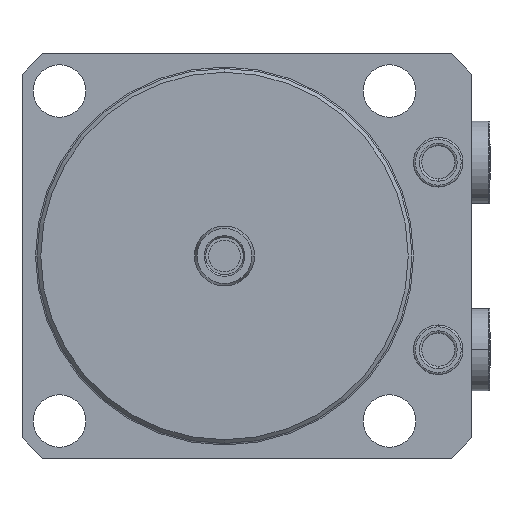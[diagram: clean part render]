
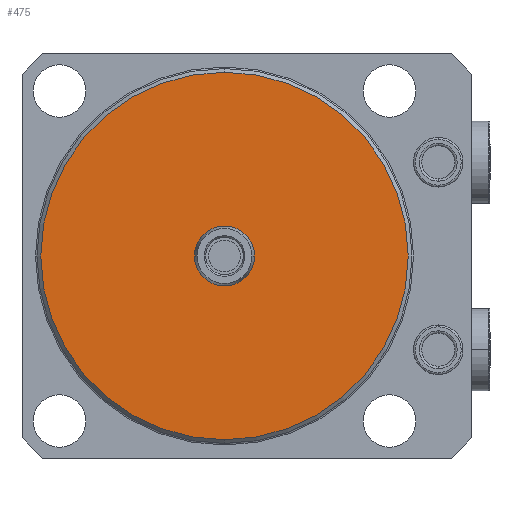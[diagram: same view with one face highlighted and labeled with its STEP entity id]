
A CAD part, front view. The second image highlights one B-rep face of the part: STEP entity #475.
In plain terms, the highlighted planar face has unit normal (0, -1, 0) as drawn and (0, 1, 0) by its records, which use the part's own axes.
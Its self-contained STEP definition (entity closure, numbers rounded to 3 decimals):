
#207=PLANE('',#4908);
#317=FACE_BOUND('',#1134,.F.);
#318=FACE_BOUND('',#1135,.F.);
#475=ADVANCED_FACE('',(#317,#318),#207,.T.);
#1134=EDGE_LOOP('',(#2025,#2026));
#1135=EDGE_LOOP('',(#2027,#2028));
#1415=CIRCLE('',#4781,8.);
#1471=CIRCLE('',#4861,49.);
#1494=CIRCLE('',#4906,8.);
#1495=CIRCLE('',#4907,49.);
#2025=ORIENTED_EDGE('',*,*,#3703,.T.);
#2026=ORIENTED_EDGE('',*,*,#3496,.T.);
#2027=ORIENTED_EDGE('',*,*,#3704,.T.);
#2028=ORIENTED_EDGE('',*,*,#3590,.T.);
#3060=VERTEX_POINT('',#6925);
#3061=VERTEX_POINT('',#6926);
#3138=VERTEX_POINT('',#7142);
#3139=VERTEX_POINT('',#7143);
#3496=EDGE_CURVE('',#3060,#3061,#1415,.T.);
#3590=EDGE_CURVE('',#3138,#3139,#1471,.T.);
#3703=EDGE_CURVE('',#3061,#3060,#1494,.T.);
#3704=EDGE_CURVE('',#3139,#3138,#1495,.T.);
#4781=AXIS2_PLACEMENT_3D('',#6924,#5431,#5432);
#4861=AXIS2_PLACEMENT_3D('',#7141,#5626,#5627);
#4906=AXIS2_PLACEMENT_3D('',#7462,#5778,#5779);
#4907=AXIS2_PLACEMENT_3D('',#7463,#5780,#5781);
#4908=AXIS2_PLACEMENT_3D('',#7464,#5782,#5783);
#5431=DIRECTION('',(0.,1.,0.));
#5432=DIRECTION('',(0.,0.,1.));
#5626=DIRECTION('',(0.,-1.,0.));
#5627=DIRECTION('',(0.,0.,1.));
#5778=DIRECTION('',(0.,1.,0.));
#5779=DIRECTION('',(0.,0.,1.));
#5780=DIRECTION('',(0.,-1.,0.));
#5781=DIRECTION('',(0.,0.,1.));
#5782=DIRECTION('',(0.,1.,0.));
#5783=DIRECTION('',(0.,0.,1.));
#6924=CARTESIAN_POINT('',(0.,-65.,0.));
#6925=CARTESIAN_POINT('',(0.,-65.,-8.));
#6926=CARTESIAN_POINT('',(0.,-65.,8.));
#7141=CARTESIAN_POINT('',(0.,-65.,0.));
#7142=CARTESIAN_POINT('',(0.,-65.,-49.));
#7143=CARTESIAN_POINT('',(0.,-65.,49.));
#7462=CARTESIAN_POINT('',(0.,-65.,0.));
#7463=CARTESIAN_POINT('',(0.,-65.,0.));
#7464=CARTESIAN_POINT('',(0.,-65.,0.));
